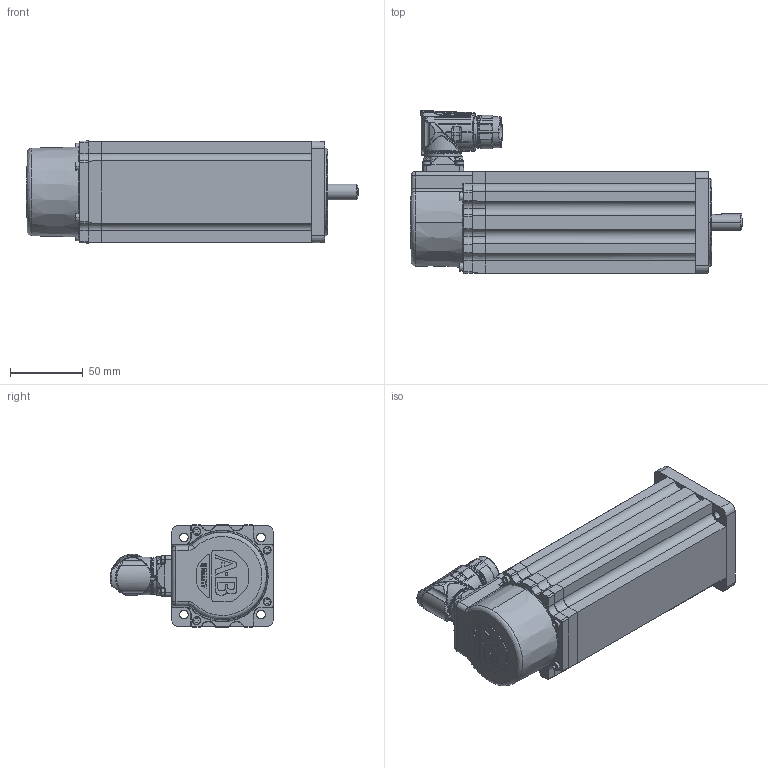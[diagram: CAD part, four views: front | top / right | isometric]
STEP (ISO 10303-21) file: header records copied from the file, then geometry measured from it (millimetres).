
FILE_DESCRIPTION (( 'STEP AP214' ), '1' );
FILE_NAME ('Rockwell Automation-$PARTNUMBER.STEP', '2014-02-18T10:13:05', ( 'Windows User' ), ( '' ), 'SwSTEP 2.0', 'SolidWorks 2014', '' );
FILE_SCHEMA (( 'AUTOMOTIVE_DESIGN' ));
Length unit declared in the file: inch
Products named in the file (27): Rockwell Automation-$PARTNUMBER_Rockwell Automation-VPL-x0753x-xJx4xx_10000205606_AF31_ANY; Rockwell Automation-$PARTNUMBER_Rockwell Automation-VPL-x0753x-xJx4xx_10000218021_ANY; Rockwell Automation-$PARTNUMBER_Rockwell Automation-VPL-x0753x-xJx4xx_91290A115_ANY; Rockwell Automation-$PARTNUMBER_Rockwell Automation-VPL-x0753x-xJx4xx_M23_Connector; Rockwell Automation-$PARTNUMBER_Rockwell Automation-VPL-x0753x-xJx4xx_10000014326-M23_ASM; Rockwell Automation-$PARTNUMBER_Rockwell Automation-VPL-x0753x-xJx4xx_10000014326-1; Rockwell Automation-$PARTNUMBER_Rockwell Automation-VPL-x0753x-xJx4xx_10000014325-1; Rockwell Automation-$PARTNUMBER_Rockwell Automation-VPL-x0753x-xJx4xx_10000540833; Rockwell Automation-$PARTNUMBER_Rockwell Automation-VPL-x0753x-xJx4xx_FRONT_without key_1; Rockwell Automation-$PARTNUMBER_Rockwell Automation-VPL-x0753x-xJx4xx_FRONT_1; Rockwell Automation-$PARTNUMBER_Rockwell Automation-VPL-x0753x-xJx4xx_tab; Rockwell Automation-$PARTNUMBER_Rockwell Automation-VPL-x0753x-xJx4xx_vpl-075_0753-break; Rockwell Automation-$PARTNUMBER_Rockwell Automation-VPL-x0753x-xJx4xx_10000169222_ANY_1; Rockwell Automation-$PARTNUMBER_Rockwell Automation-VPL-x0753x-xJx4xx_FRONT_withkey_075_shaft_Shaft_J_3_4; Rockwell Automation-$PARTNUMBER_Rockwell Automation-VPL-x0753x-xJx4xx_10000206536_ASM_ANY_ASM_1; Rockwell Automation-$PARTNUMBER_Rockwell Automation-VPL-x0753x-xJx4xx_0011-G402_ANY_2; Rockwell Automation-$PARTNUMBER_Rockwell Automation-VPL-x0753x-xJx4xx_10000206535_AF0_ANY_1; Rockwell Automation-$PARTNUMBER_Rockwell Automation-VPL-x0753x-xJx4xx_REAR_ASM_ANY_ASM; Rockwell Automation-$PARTNUMBER_Rockwell Automation-VPL-x0753x-xJx4xx_10000210273_AF2_ANY_1; Rockwell Automation-$PARTNUMBER_Rockwell Automation-VPL-x0753x-xJx4xx_PRT0002; Rockwell Automation-$PARTNUMBER_Rockwell Automation-VPL-x0753x-xJx4xx_10000213398_ANY_1; Rockwell Automation-$PARTNUMBER_Rockwell Automation-VPL-x0753x-xJx4xx_PRT0001; Rockwell Automation-$PARTNUMBER_Rockwell Automation-VPL-x0753x-xJx4xx_vpl-middle-075_0753-break; Rockwell Automation-$PARTNUMBER_Rockwell Automation-VPL-x0753x-xJx4xx_10000220495_ASM_1_ANY_ASM; Rockwell Automation-$PARTNUMBER_Rockwell Automation-VPL-x0753x-xJx4xx_10000206533_AF0_ANY; Rockwell Automation-$PARTNUMBER; Rockwell Automation-$PARTNUMBER_Rockwell Automation-VPL-x0753x-xJx4xx_10000220495_ASM_ANY
Assembly tree (36 placements, depth 6):
  Rockwell Automation-$PARTNUMBER_Rockwell Automation-VPL-x0753x-xJx4xx_tab
  Rockwell Automation-$PARTNUMBER
    Rockwell Automation-$PARTNUMBER_Rockwell Automation-VPL-x0753x-xJx4xx_vpl-075_0753-break
      Rockwell Automation-$PARTNUMBER_Rockwell Automation-VPL-x0753x-xJx4xx_vpl-middle-075_0753-break
      Rockwell Automation-$PARTNUMBER_Rockwell Automation-VPL-x0753x-xJx4xx_FRONT_without key_1
        Rockwell Automation-$PARTNUMBER_Rockwell Automation-VPL-x0753x-xJx4xx_FRONT_1
          Rockwell Automation-$PARTNUMBER_Rockwell Automation-VPL-x0753x-xJx4xx_10000213398_ANY_1
          Rockwell Automation-$PARTNUMBER_Rockwell Automation-VPL-x0753x-xJx4xx_10000206536_ASM_ANY_ASM_1
            Rockwell Automation-$PARTNUMBER_Rockwell Automation-VPL-x0753x-xJx4xx_10000210273_AF2_ANY_1
            Rockwell Automation-$PARTNUMBER_Rockwell Automation-VPL-x0753x-xJx4xx_10000206535_AF0_ANY_1
          Rockwell Automation-$PARTNUMBER_Rockwell Automation-VPL-x0753x-xJx4xx_10000169222_ANY_1  x4
      Rockwell Automation-$PARTNUMBER_Rockwell Automation-VPL-x0753x-xJx4xx_REAR_ASM_ANY_ASM
        Rockwell Automation-$PARTNUMBER_Rockwell Automation-VPL-x0753x-xJx4xx_M23_Connector
          Rockwell Automation-$PARTNUMBER_Rockwell Automation-VPL-x0753x-xJx4xx_10000540833
          Rockwell Automation-$PARTNUMBER_Rockwell Automation-VPL-x0753x-xJx4xx_10000014325-1
          Rockwell Automation-$PARTNUMBER_Rockwell Automation-VPL-x0753x-xJx4xx_10000014326-M23_ASM
            Rockwell Automation-$PARTNUMBER_Rockwell Automation-VPL-x0753x-xJx4xx_10000014326-1
        Rockwell Automation-$PARTNUMBER_Rockwell Automation-VPL-x0753x-xJx4xx_91290A115_ANY  x4
        Rockwell Automation-$PARTNUMBER_Rockwell Automation-VPL-x0753x-xJx4xx_10000218021_ANY  x2
        Rockwell Automation-$PARTNUMBER_Rockwell Automation-VPL-x0753x-xJx4xx_10000220495_ASM_1_ANY_ASM
          Rockwell Automation-$PARTNUMBER_Rockwell Automation-VPL-x0753x-xJx4xx_10000205606_AF31_ANY
          Rockwell Automation-$PARTNUMBER_Rockwell Automation-VPL-x0753x-xJx4xx_10000220495_ASM_ANY  x2
          Rockwell Automation-$PARTNUMBER_Rockwell Automation-VPL-x0753x-xJx4xx_10000206533_AF0_ANY
        Rockwell Automation-$PARTNUMBER_Rockwell Automation-VPL-x0753x-xJx4xx_PRT0001  x4
        Rockwell Automation-$PARTNUMBER_Rockwell Automation-VPL-x0753x-xJx4xx_PRT0002
      Rockwell Automation-$PARTNUMBER_Rockwell Automation-VPL-x0753x-xJx4xx_0011-G402_ANY_2
      Rockwell Automation-$PARTNUMBER_Rockwell Automation-VPL-x0753x-xJx4xx_FRONT_withkey_075_shaft_Shaft_J_3_4
Bounding box: 228.5 x 112.23 x 70.31 mm (x, y, z)
Volume: 313094.7 mm3; surface area: 188771.2 mm2
Topology: 22 solids, 42 shells, 3125 faces, 8577 edges, 5556 vertices
Faces by surface type: cylinder 1013, plane 942, bspline 786, cone 382, torus 2
Entity records: 161226 total; most frequent: CARTESIAN_POINT 88035, ORIENTED_EDGE 14407, DIRECTION 8514, EDGE_CURVE 7222, VERTEX_POINT 4739, B_SPLINE_CURVE_WITH_KNOTS 3661, AXIS2_PLACEMENT_3D 3188, EDGE_LOOP 2769
